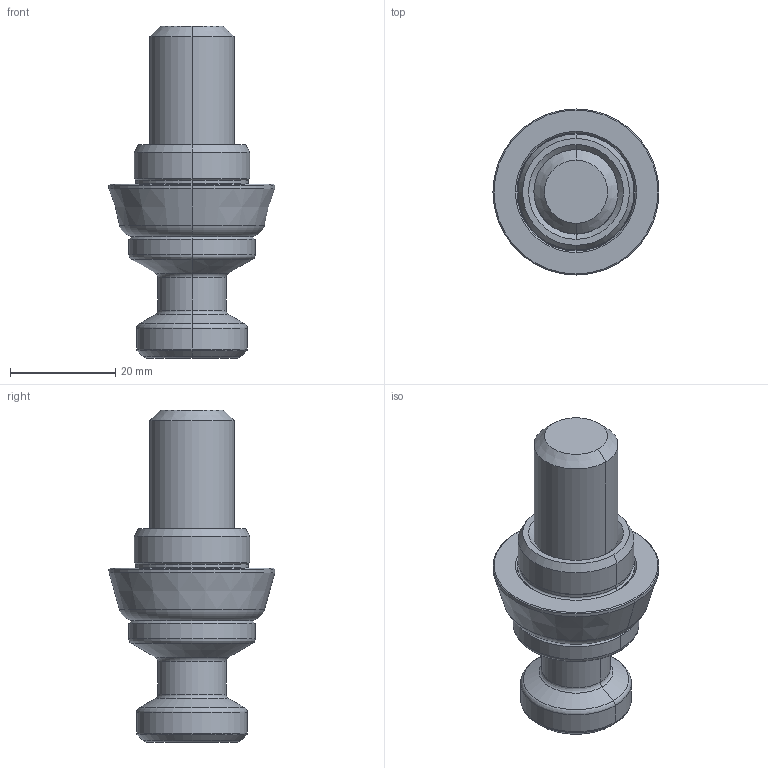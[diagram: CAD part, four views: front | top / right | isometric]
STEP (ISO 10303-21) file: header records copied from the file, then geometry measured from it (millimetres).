
FILE_DESCRIPTION (( 'STEP AP203' ), '1' );
FILE_NAME ('cp155-16001l.STEP', '2021-10-25T23:36:08', ( '' ), ( '' ), 'SwSTEP 2.0', 'SolidWorks 2020', '' );
FILE_SCHEMA (( 'CONFIG_CONTROL_DESIGN' ));
Length unit declared in the file: millimetre
Products named in the file (1): cp155-16001l
Bounding box: 31.5 x 31.5 x 63 mm (x, y, z)
Volume: 19892.1 mm3; surface area: 5516.2 mm2
Topology: 1 solids, 1 shells, 67 faces, 138 edges, 78 vertices
Faces by surface type: cone 24, torus 16, cylinder 14, plane 13
Entity records: 1865 total; most frequent: DIRECTION 346, CARTESIAN_POINT 332, ORIENTED_EDGE 276, AXIS2_PLACEMENT_3D 148, EDGE_CURVE 138, CIRCLE 80, VERTEX_POINT 78, EDGE_LOOP 72
